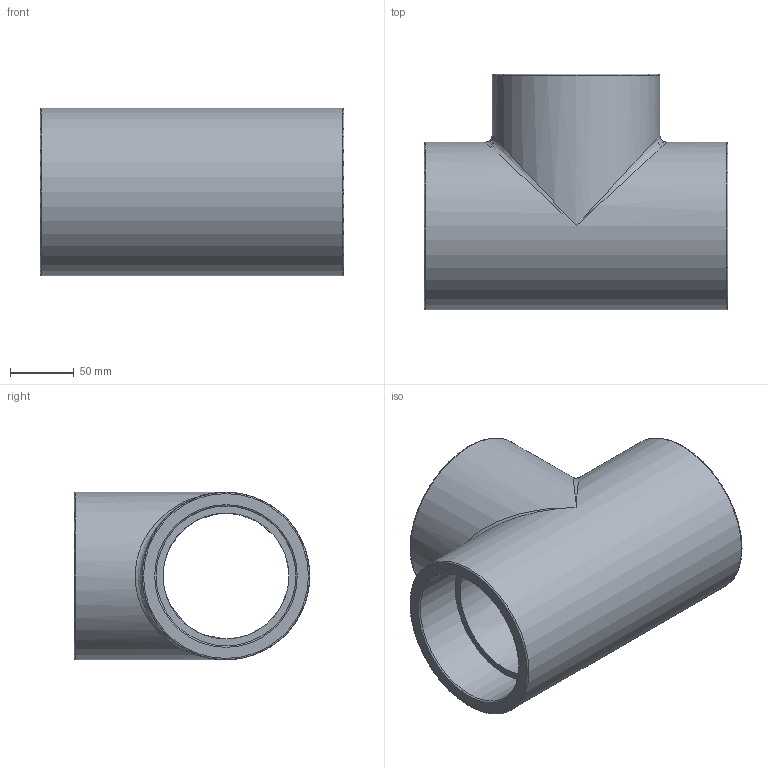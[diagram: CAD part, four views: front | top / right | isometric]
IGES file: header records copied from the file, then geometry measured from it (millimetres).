
Global section: file name: 050401040.ipt; native system: Autodesk Inventor 2015; preprocessor: unknown; author: KIM; date: 20171207.164521; units: millimetre
Bounding box: 239 x 185.5 x 132 mm (x, y, z)
Volume: 1483777.6 mm3; surface area: 226555.1 mm2
Topology: 1 solids, 1 shells, 20 faces, 59 edges, 40 vertices
Faces by surface type: revolution 10, plane 6, bspline 2, cylinder 2
Full cylindrical faces by diameter (mm): 132 x2
